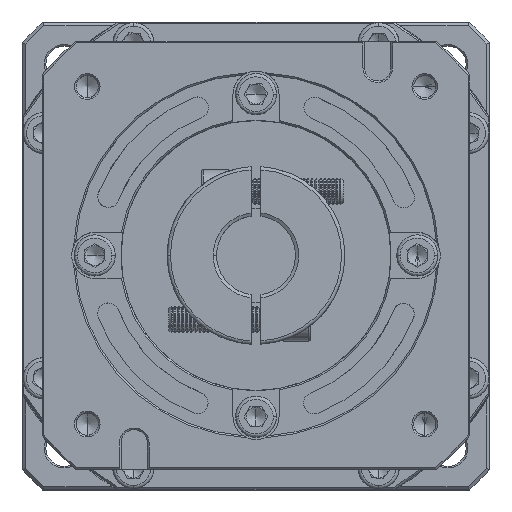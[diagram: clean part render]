
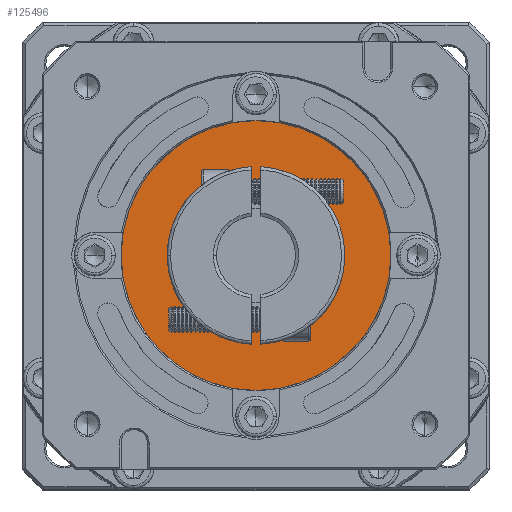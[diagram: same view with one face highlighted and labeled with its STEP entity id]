
A CAD part, top view. The second image highlights one B-rep face of the part: STEP entity #125496.
In plain terms, the highlighted planar face has unit normal (0, 0, 1).
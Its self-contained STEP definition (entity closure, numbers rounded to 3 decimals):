
#4753 = CIRCLE ( 'NONE', #110772, 41. ) ;
#5255 = VERTEX_POINT ( 'NONE', #9565 ) ;
#5539 = AXIS2_PLACEMENT_3D ( 'NONE', #108509, #61558, #107512 ) ;
#9565 = CARTESIAN_POINT ( 'NONE',  ( -131.705, 122.383, 32.725 ) ) ;
#14632 = DIRECTION ( 'NONE',  ( 0., -1., 0. ) ) ;
#17737 = VERTEX_POINT ( 'NONE', #51619 ) ;
#23242 = PLANE ( 'NONE',  #65976 ) ;
#40963 = EDGE_CURVE ( 'NONE', #130771, #17737, #67994, .T. ) ;
#42995 = ORIENTED_EDGE ( 'NONE', *, *, #40963, .T. ) ;
#45519 = AXIS2_PLACEMENT_3D ( 'NONE', #99977, #109599, #98523 ) ;
#46294 = CIRCLE ( 'NONE', #45519, 41. ) ;
#46311 = CARTESIAN_POINT ( 'NONE',  ( -131.705, 81.383, 32.725 ) ) ;
#50676 = EDGE_CURVE ( 'NONE', #5255, #87873, #46294, .T. ) ;
#51619 = CARTESIAN_POINT ( 'NONE',  ( -131.705, 61.383, 32.725 ) ) ;
#56947 = FACE_OUTER_BOUND ( 'NONE', #105611, .T. ) ;
#61558 = DIRECTION ( 'NONE',  ( 0., 0., -1. ) ) ;
#65976 = AXIS2_PLACEMENT_3D ( 'NONE', #116402, #128895, #14632 ) ;
#67994 = CIRCLE ( 'NONE', #142388, 20. ) ;
#74848 = CARTESIAN_POINT ( 'NONE',  ( -131.705, 81.383, 32.725 ) ) ;
#80476 = EDGE_LOOP ( 'NONE', ( #80870, #42995 ) ) ;
#80870 = ORIENTED_EDGE ( 'NONE', *, *, #114521, .T. ) ;
#85550 = ORIENTED_EDGE ( 'NONE', *, *, #143120, .T. ) ;
#86374 = DIRECTION ( 'NONE',  ( 0., 0., 1. ) ) ;
#87873 = VERTEX_POINT ( 'NONE', #93140 ) ;
#93140 = CARTESIAN_POINT ( 'NONE',  ( -131.705, 40.383, 32.725 ) ) ;
#95692 = CARTESIAN_POINT ( 'NONE',  ( -131.705, 101.383, 32.725 ) ) ;
#97816 = DIRECTION ( 'NONE',  ( 0., -1., 0. ) ) ;
#98523 = DIRECTION ( 'NONE',  ( 0., -1., 0. ) ) ;
#99977 = CARTESIAN_POINT ( 'NONE',  ( -131.705, 81.383, 32.725 ) ) ;
#101955 = ORIENTED_EDGE ( 'NONE', *, *, #50676, .T. ) ;
#105321 = FACE_BOUND ( 'NONE', #80476, .T. ) ;
#105611 = EDGE_LOOP ( 'NONE', ( #85550, #101955 ) ) ;
#107512 = DIRECTION ( 'NONE',  ( 0., -1., 0. ) ) ;
#108509 = CARTESIAN_POINT ( 'NONE',  ( -131.705, 81.383, 32.725 ) ) ;
#109599 = DIRECTION ( 'NONE',  ( 0., 0., 1. ) ) ;
#110772 = AXIS2_PLACEMENT_3D ( 'NONE', #74848, #86374, #97816 ) ;
#114521 = EDGE_CURVE ( 'NONE', #17737, #130771, #136278, .T. ) ;
#116402 = CARTESIAN_POINT ( 'NONE',  ( -131.705, 81.383, 32.725 ) ) ;
#125496 = ADVANCED_FACE ( 'NONE', ( #56947, #105321 ), #23242, .T. ) ;
#126399 = DIRECTION ( 'NONE',  ( 0., 0., -1. ) ) ;
#128895 = DIRECTION ( 'NONE',  ( 0., 0., 1. ) ) ;
#130771 = VERTEX_POINT ( 'NONE', #95692 ) ;
#136278 = CIRCLE ( 'NONE', #5539, 20. ) ;
#138500 = DIRECTION ( 'NONE',  ( 0., -1., 0. ) ) ;
#142388 = AXIS2_PLACEMENT_3D ( 'NONE', #46311, #126399, #138500 ) ;
#143120 = EDGE_CURVE ( 'NONE', #87873, #5255, #4753, .T. ) ;
